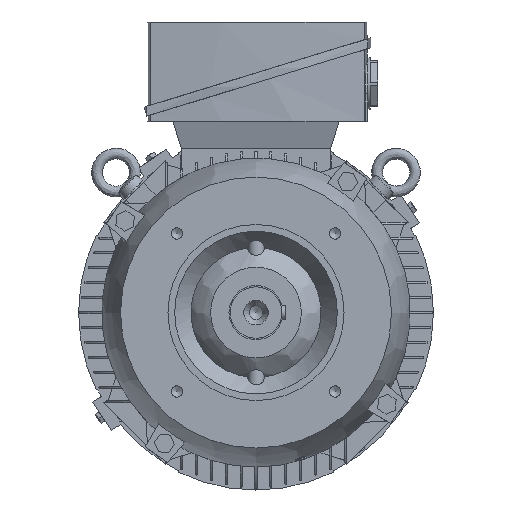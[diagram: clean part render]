
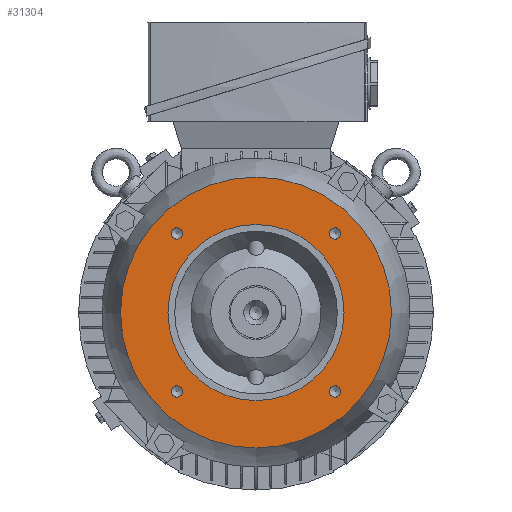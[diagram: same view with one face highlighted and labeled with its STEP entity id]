
A CAD part, left-side view. The second image highlights one B-rep face of the part: STEP entity #31304.
In plain terms, the highlighted planar face has unit normal (-1, 0, 0).
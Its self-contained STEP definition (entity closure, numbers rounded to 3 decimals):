
#764 = AXIS2_PLACEMENT_3D ( 'NONE', #16212, #39093, #19519 ) ;
#2126 = EDGE_CURVE ( 'NONE', #11419, #11419, #17398, .T. ) ;
#2160 = EDGE_LOOP ( 'NONE', ( #41314 ) ) ;
#2173 = DIRECTION ( 'NONE',  ( 0., 0., 1. ) ) ;
#2693 = CARTESIAN_POINT ( 'NONE',  ( -50.5, -58.336, -58.336 ) ) ;
#4105 = CARTESIAN_POINT ( 'NONE',  ( -50.5, 0., 0. ) ) ;
#4272 = VERTEX_POINT ( 'NONE', #21156 ) ;
#4290 = CARTESIAN_POINT ( 'NONE',  ( -50.5, 0., 82.5 ) ) ;
#4298 = EDGE_CURVE ( 'NONE', #26780, #26780, #33176, .T. ) ;
#4344 = AXIS2_PLACEMENT_3D ( 'NONE', #4290, #27171, #7527 ) ;
#5956 = DIRECTION ( 'NONE',  ( 0., 0., -1. ) ) ;
#7338 = DIRECTION ( 'NONE',  ( 0., 0., -1. ) ) ;
#7386 = PLANE ( 'NONE',  #4344 ) ;
#7527 = DIRECTION ( 'NONE',  ( 0., 0., 1. ) ) ;
#8633 = CIRCLE ( 'NONE', #11659, 100. ) ;
#8731 = DIRECTION ( 'NONE',  ( 1., 0., 0. ) ) ;
#9111 = EDGE_CURVE ( 'NONE', #42081, #42081, #17143, .T. ) ;
#9874 = FACE_BOUND ( 'NONE', #20751, .T. ) ;
#11141 = CARTESIAN_POINT ( 'NONE',  ( -50.5, -58.336, -62.526 ) ) ;
#11290 = CARTESIAN_POINT ( 'NONE',  ( -50.5, 0., -100. ) ) ;
#11419 = VERTEX_POINT ( 'NONE', #20731 ) ;
#11541 = EDGE_LOOP ( 'NONE', ( #16593 ) ) ;
#11659 = AXIS2_PLACEMENT_3D ( 'NONE', #4105, #26968, #7338 ) ;
#12000 = EDGE_LOOP ( 'NONE', ( #16223 ) ) ;
#13920 = VERTEX_POINT ( 'NONE', #11290 ) ;
#14104 = DIRECTION ( 'NONE',  ( 1., 0., 0. ) ) ;
#14699 = EDGE_LOOP ( 'NONE', ( #19350 ) ) ;
#15658 = AXIS2_PLACEMENT_3D ( 'NONE', #2693, #25586, #5956 ) ;
#15855 = CIRCLE ( 'NONE', #34803, 65. ) ;
#16212 = CARTESIAN_POINT ( 'NONE',  ( -50.5, 58.336, -58.336 ) ) ;
#16223 = ORIENTED_EDGE ( 'NONE', *, *, #4298, .T. ) ;
#16593 = ORIENTED_EDGE ( 'NONE', *, *, #35758, .T. ) ;
#17143 = CIRCLE ( 'NONE', #15658, 4.19 ) ;
#17344 = CIRCLE ( 'NONE', #37566, 4.19 ) ;
#17398 = CIRCLE ( 'NONE', #19288, 4.19 ) ;
#18537 = FACE_OUTER_BOUND ( 'NONE', #26322, .T. ) ;
#19288 = AXIS2_PLACEMENT_3D ( 'NONE', #28392, #8731, #31673 ) ;
#19350 = ORIENTED_EDGE ( 'NONE', *, *, #2126, .T. ) ;
#19519 = DIRECTION ( 'NONE',  ( 0., 0., -1. ) ) ;
#20731 = CARTESIAN_POINT ( 'NONE',  ( -50.5, 58.336, 54.146 ) ) ;
#20751 = EDGE_LOOP ( 'NONE', ( #25017 ) ) ;
#21156 = CARTESIAN_POINT ( 'NONE',  ( -50.5, 0., 65. ) ) ;
#21737 = DIRECTION ( 'NONE',  ( 1., 0., 0. ) ) ;
#24450 = CARTESIAN_POINT ( 'NONE',  ( -50.5, -58.336, 54.146 ) ) ;
#25017 = ORIENTED_EDGE ( 'NONE', *, *, #9111, .T. ) ;
#25586 = DIRECTION ( 'NONE',  ( 1., 0., 0. ) ) ;
#26322 = EDGE_LOOP ( 'NONE', ( #41634 ) ) ;
#26780 = VERTEX_POINT ( 'NONE', #40442 ) ;
#26968 = DIRECTION ( 'NONE',  ( 1., 0., 0. ) ) ;
#27171 = DIRECTION ( 'NONE',  ( -1., 0., 0. ) ) ;
#27311 = FACE_BOUND ( 'NONE', #11541, .T. ) ;
#28341 = FACE_BOUND ( 'NONE', #2160, .T. ) ;
#28392 = CARTESIAN_POINT ( 'NONE',  ( -50.5, 58.336, 58.336 ) ) ;
#29366 = VERTEX_POINT ( 'NONE', #24450 ) ;
#30086 = EDGE_CURVE ( 'NONE', #13920, #13920, #8633, .T. ) ;
#31304 = ADVANCED_FACE ( 'NONE', ( #28341, #18537, #36006, #37049, #9874, #27311 ), #7386, .T. ) ;
#31673 = DIRECTION ( 'NONE',  ( 0., 0., -1. ) ) ;
#33176 = CIRCLE ( 'NONE', #764, 4.19 ) ;
#33750 = CARTESIAN_POINT ( 'NONE',  ( -50.5, -58.336, 58.336 ) ) ;
#34803 = AXIS2_PLACEMENT_3D ( 'NONE', #41315, #21737, #2173 ) ;
#35313 = EDGE_CURVE ( 'NONE', #4272, #4272, #15855, .T. ) ;
#35758 = EDGE_CURVE ( 'NONE', #29366, #29366, #17344, .T. ) ;
#36006 = FACE_BOUND ( 'NONE', #14699, .T. ) ;
#37049 = FACE_BOUND ( 'NONE', #12000, .T. ) ;
#37062 = DIRECTION ( 'NONE',  ( 0., 0., -1. ) ) ;
#37566 = AXIS2_PLACEMENT_3D ( 'NONE', #33750, #14104, #37062 ) ;
#39093 = DIRECTION ( 'NONE',  ( 1., 0., 0. ) ) ;
#40442 = CARTESIAN_POINT ( 'NONE',  ( -50.5, 58.336, -62.526 ) ) ;
#41314 = ORIENTED_EDGE ( 'NONE', *, *, #35313, .T. ) ;
#41315 = CARTESIAN_POINT ( 'NONE',  ( -50.5, 0., 0. ) ) ;
#41634 = ORIENTED_EDGE ( 'NONE', *, *, #30086, .F. ) ;
#42081 = VERTEX_POINT ( 'NONE', #11141 ) ;
